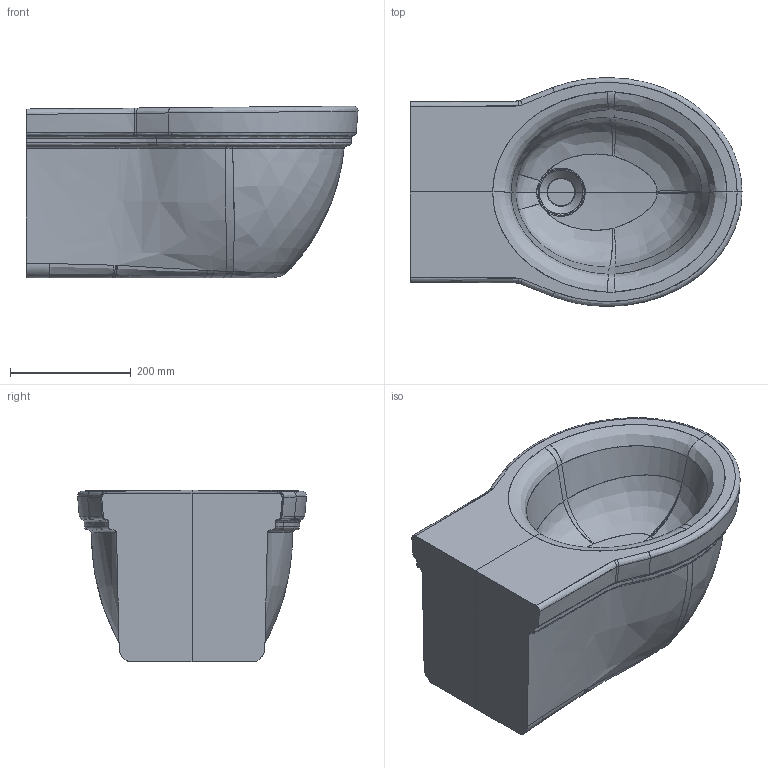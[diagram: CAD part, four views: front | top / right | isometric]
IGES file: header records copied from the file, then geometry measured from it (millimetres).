
Start section: START RECORD GO HERE.
Global section: file name: 8440M_BIDET SOSP ETHOS.igs; native system: DASSAULT SYSTEMES CATIA V5 R19 - www.3ds.com; preprocessor: CATIA Version 5 Release 19 SP 5 ; author: gioge; organization: LAPTOP-G94B6G74; date: 20200630.150820; units: millimetre
Bounding box: 549.25 x 378.69 x 284.37 mm (x, y, z)
Surface area: 770096.2 mm2 (no closed solid volume)
Topology: 0 solids, 0 shells, 144 faces, 815 edges, 799 vertices
Faces by surface type: bspline 126, plane 8, revolution 6, extrusion 4
